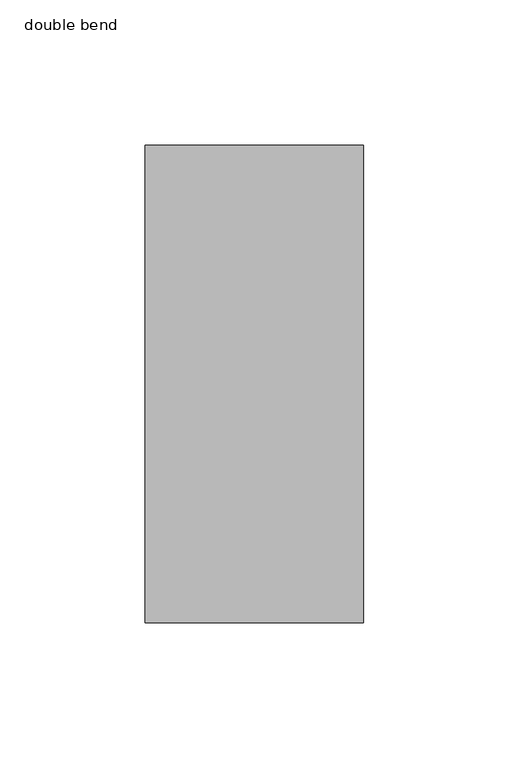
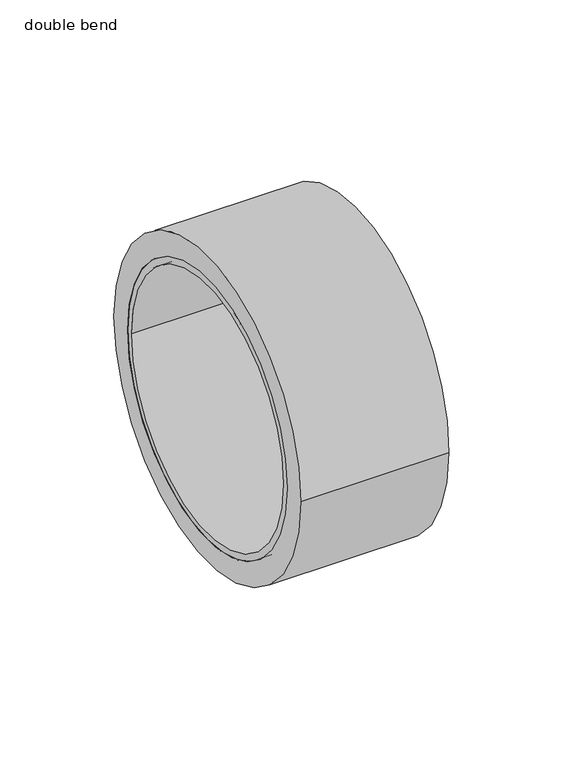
"""IFC4 building model written with IfcOpenShell, lengths in millimetres: pipe fitting geometry, PIF_ST_UN_GM-X compound pipe multi-bend_ACO : double bend."""

from ifc_helpers import new_model, si_unit, point, frame, origin, origin_2d, place, context, project, spatial, polyline, circle_curve, trimmed, segment, composite_curve, outline, extrude, source, transform, mapped, element, save
from ifc_brep_helpers import plane_surface, cylinder_surface, revolved_surface, advanced_brep


def double_bend_d3bed9e9(model_context):
    return source(origin(), model_context, "Body", "SolidModel", [
        extrude(outline(composite_curve([segment(trimmed(circle_curve(origin_2d(), 82.0), [point((82.0, 0.0))], [point((-82.0, 0.0))], False, "CARTESIAN"), True, "CONTINUOUS"), segment(trimmed(circle_curve(origin_2d(), 82.0), [point((-82.0, 0.0))], [point((82.0, 0.0))], False, "CARTESIAN"), True, "CONTINUOUS")], self_intersect=False), holes=[composite_curve([segment(trimmed(circle_curve(origin_2d(), 70.0), [point((-70.0, 0.0))], [point((70.0, 0.0))], True, "CARTESIAN"), True, "CONTINUOUS"), segment(trimmed(circle_curve(origin_2d(), 70.0), [point((70.0, 0.0))], [point((-70.0, 0.0))], True, "CARTESIAN"), True, "CONTINUOUS")], self_intersect=False)]), frame((-272.8858223, 0.0, 0.0), z_axis=(1.0, 0.0, 0.0), x_axis=(0.0, 1.0, 0.0)), (0.0, 0.0, 1.0), 75.0),
        advanced_brep(
        [(-272.8858223, 70.0, 0.0), (-272.8858223, -70.0, 0.0), (-272.8858223, -66.5, 0.0), (-272.8858223, 66.5, 0.0), (-197.8858223, 70.0, 0.0), (-197.8858223, -70.0, 0.0), (-197.8858223, 66.5, 0.0), (-197.8858223, -66.5, 0.0), (-237.8858223, 70.0, 0.0), (-237.8858223, -70.0, 0.0), (-206.2858223, -70.0, 0.0), (-206.2858223, 70.0, 0.0), (-237.8858223, 76.0, 0.0), (-237.8858223, -76.0, 0.0), (-206.2858223, 76.0, 0.0), (-206.2858223, -76.0, 0.0)],
        [
            (0, 1, circle_curve(frame((-272.8858223, 0.0, 0.0), z_axis=(-1.0, 0.0, 0.0), x_axis=(0.0, -1.0, 0.0)), 70.0)),
            (1, 0, circle_curve(frame((-272.8858223, 0.0, 0.0), z_axis=(-1.0, 0.0, 0.0), x_axis=(0.0, -1.0, 0.0)), 70.0)),
            (2, 3, circle_curve(frame((-272.8858223, 0.0, 0.0), z_axis=(1.0, 0.0, 0.0), x_axis=(0.0, -1.0, 0.0)), 66.5)),
            (3, 2, circle_curve(frame((-272.8858223, 0.0, 0.0), z_axis=(1.0, 0.0, 0.0), x_axis=(0.0, -1.0, 0.0)), 66.5)),
            (4, 5, circle_curve(frame((-197.8858223, 0.0, 0.0), z_axis=(1.0, 0.0, 0.0), x_axis=(0.0, -1.0, 0.0)), 70.0)),
            (5, 4, circle_curve(frame((-197.8858223, 0.0, 0.0), z_axis=(1.0, 0.0, 0.0), x_axis=(0.0, -1.0, 0.0)), 70.0)),
            (6, 7, circle_curve(frame((-197.8858223, 0.0, 0.0), z_axis=(-1.0, 0.0, 0.0), x_axis=(0.0, -1.0, 0.0)), 66.5)),
            (7, 6, circle_curve(frame((-197.8858223, 0.0, 0.0), z_axis=(-1.0, 0.0, 0.0), x_axis=(0.0, -1.0, 0.0)), 66.5)),
            (0, 8),
            (8, 9, circle_curve(frame((-237.8858223, 0.0, 0.0), z_axis=(-1.0, 0.0, 0.0), x_axis=(0.0, -1.0, 0.0)), 70.0)),
            (9, 1),
            (5, 10),
            (10, 11, circle_curve(frame((-206.2858223, 0.0, 0.0), z_axis=(1.0, 0.0, 0.0), x_axis=(0.0, -1.0, 0.0)), 70.0)),
            (11, 4),
            (9, 8, circle_curve(frame((-237.8858223, 0.0, 0.0), z_axis=(-1.0, 0.0, 0.0), x_axis=(0.0, -1.0, 0.0)), 70.0)),
            (11, 10, circle_curve(frame((-206.2858223, 0.0, 0.0), z_axis=(1.0, 0.0, 0.0), x_axis=(0.0, -1.0, 0.0)), 70.0)),
            (2, 7),
            (6, 3),
            (12, 13, circle_curve(frame((-237.8858223, 0.0, 0.0), z_axis=(-1.0, 0.0, 0.0), x_axis=(0.0, -1.0, 0.0)), 76.0)),
            (13, 12, circle_curve(frame((-237.8858223, 0.0, 0.0), z_axis=(-1.0, 0.0, 0.0), x_axis=(0.0, -1.0, 0.0)), 76.0)),
            (14, 15, circle_curve(frame((-206.2858223, 0.0, 0.0), z_axis=(1.0, 0.0, 0.0), x_axis=(0.0, -1.0, 0.0)), 76.0)),
            (15, 14, circle_curve(frame((-206.2858223, 0.0, 0.0), z_axis=(1.0, 0.0, 0.0), x_axis=(0.0, -1.0, 0.0)), 76.0)),
            (12, 14),
            (15, 13),
        ],
        [
            plane_surface(frame((-272.8858223, -70.0, 0.0), z_axis=(-1.0, 0.0, 0.0), x_axis=(0.0, 0.0, 1.0))),
            plane_surface(frame((-197.8858223, -70.0, 0.0), z_axis=(1.0, 0.0, 0.0), x_axis=(0.0, 0.0, -1.0))),
            cylinder_surface(frame((-197.8858223, 0.0, 0.0), z_axis=(-1.0, 0.0, 0.0), x_axis=(0.0, -1.0, 0.0)), 70.0),
            revolved_surface(polyline([(-272.8858223, -66.5, 0.0), (-197.8858223, -66.5, 0.0)]), (-197.8858223, 0.0, 0.0), (-1.0, 0.0, 0.0)),
            plane_surface(frame((-237.8858223, -76.0, 0.0), z_axis=(-1.0, 0.0, 0.0), x_axis=(0.0, 0.0, 1.0))),
            plane_surface(frame((-206.2858223, -76.0, 0.0), z_axis=(1.0, 0.0, 0.0), x_axis=(0.0, 0.0, -1.0))),
            cylinder_surface(frame((-206.2858223, 0.0, 0.0), z_axis=(-1.0, 0.0, 0.0), x_axis=(0.0, -1.0, 0.0)), 76.0),
        ],
        [
            (0, [[1, 2], [3, 4]]),
            (1, [[5, 6], [7, 8]]),
            (2, [[-1, 9, 10, 11]]),
            (2, [[-6, 12, 13, 14]]),
            (2, [[-2, -11, 15, -9]]),
            (2, [[-5, -14, 16, -12]]),
            (3, [[17, -7, 18, -3]]),
            (3, [[-17, -4, -18, -8]]),
            (4, [[19, 20], [-10, -15]]),
            (5, [[21, 22], [-13, -16]]),
            (6, [[-19, 23, -22, 24]]),
            (6, [[-20, -24, -21, -23]]),
        ],
    ),
    ])


if __name__ == "__main__":
    model = new_model("IFC4")
    model_context = context("Model", 3, world=origin())
    ifc_project = project(units=[si_unit("LENGTHUNIT", "METRE", prefix="MILLI")], contexts=[model_context])
    site = spatial("IfcSite", under=ifc_project)
    building = spatial("IfcBuilding", under=site)
    placement = place(None, origin())
    double_bend_shape = double_bend_d3bed9e9(model_context)
    element("IfcPipeFitting", 1, ObjectType="PIF_ST_UN_GM-X compound pipe multi-bend_ACO : double bend", at=placement, inside=building, context=model_context, shape_type="MappedRepresentation", body=[
        mapped(double_bend_shape, transform((0.0, 0.0, 0.0), x_axis=(1.0, 0.0, 0.0), y_axis=(0.0, 1.0, 0.0), z_axis=(0.0, 0.0, 1.0))),
    ])
    save(model, "model.ifc")
